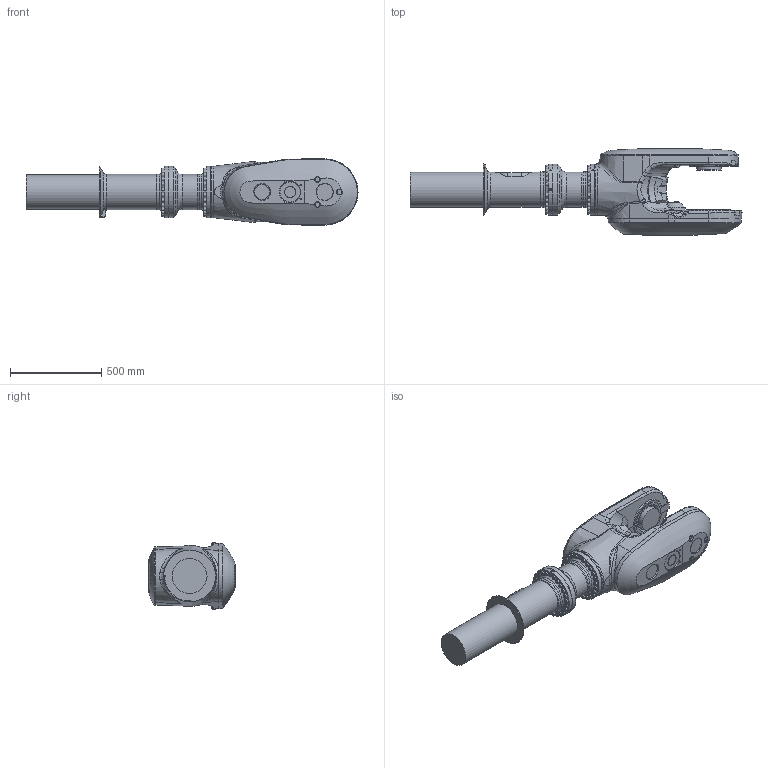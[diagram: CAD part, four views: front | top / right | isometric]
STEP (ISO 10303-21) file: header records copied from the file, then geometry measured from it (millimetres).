
FILE_DESCRIPTION (( 'STEP AP214' ), '1' );
FILE_NAME ('IRB7710_All-310_OC_00_LINK04_CAD.step', '2026-01-28T09:15:43', ( '' ), ( '' ), 'SwSTEP 2.0', 'SolidWorks 2024', '' );
FILE_SCHEMA (( 'AUTOMOTIVE_DESIGN' ));
Length unit declared in the file: millimetre
Products named in the file (1): IRB7710_All-310_OC_00_LINK04_CAD
Bounding box: 1816.38 x 475.5 x 362.3 mm (x, y, z)
Volume: 101851513 mm3; surface area: 2148176.4 mm2
Topology: 1 solids, 1 shells, 700 faces, 1736 edges, 1129 vertices
Faces by surface type: plane 291, cylinder 146, bspline 142, cone 113, torus 8
Full cylindrical faces by diameter (mm): 4.8 x2, 6.8 x6, 8.3 x2, 10.5 x1, 12 x3, 17.9 x2, 18 x2, 18.27 x50, 24 x1, 27 x1, 28 x4, 90 x1, 134 x1, 140 x1, 189.5 x1, 190 x3, 192 x2, 195 x2, 280 x4
Entity records: 38850 total; most frequent: CARTESIAN_POINT 17216, ORIENTED_EDGE 2966, DIRECTION 2448, EDGE_CURVE 1483, VERTEX_POINT 1027, AXIS2_PLACEMENT_3D 963, EDGE_LOOP 942, FACE_OUTER_BOUND 797
